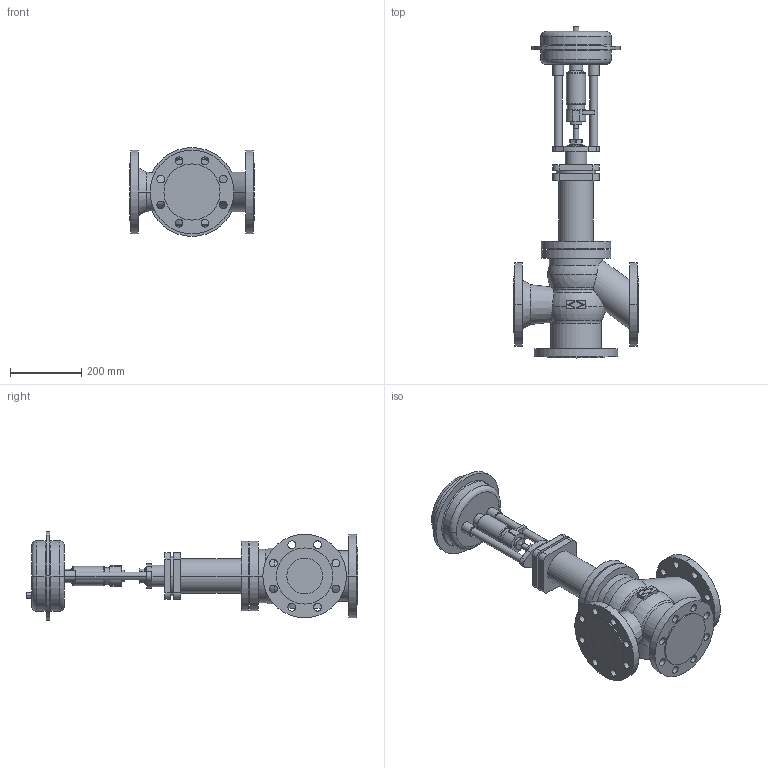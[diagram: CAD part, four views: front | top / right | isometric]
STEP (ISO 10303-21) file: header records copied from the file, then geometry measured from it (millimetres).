
FILE_DESCRIPTION(('OneSpaceDesigner STEP Export'),'2;1');
FILE_NAME('c000000751.stp','2006-09-20T11:31:02',(''),(''),'OneSpace Designer STEP processor for AP214 (Solid Model)','OneSpace Designer 13.20A 18-Aug-2005 (C) CoCreate Software GmbH','');
FILE_SCHEMA(('AUTOMOTIVE_DESIGN { 1 0 10303 214 1 1 1 1 }'));
Length unit declared in the file: millimetre
Products named in the file (2): 1; 2
Bounding box: 350 x 933.7 x 250 mm (x, y, z)
Volume: 16570417 mm3; surface area: 918575.2 mm2
Topology: 2 solids, 2 shells, 265 faces, 661 edges, 430 vertices
Faces by surface type: cylinder 136, plane 89, torus 28, cone 8, sphere 4
Entity records: 7289 total; most frequent: CARTESIAN_POINT 1504, ORIENTED_EDGE 1314, DIRECTION 1040, EDGE_CURVE 657, VERTEX_POINT 430, AXIS2_PLACEMENT_3D 384, EDGE_LOOP 347, VECTOR 272
